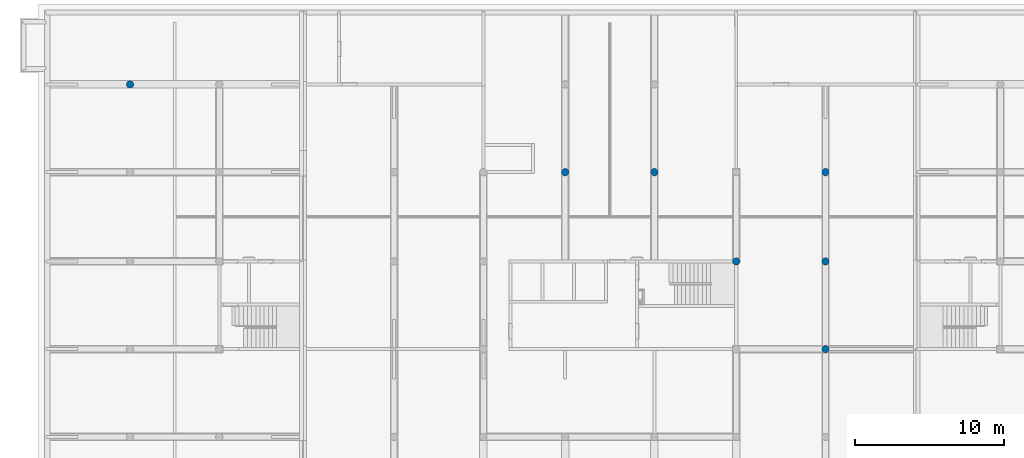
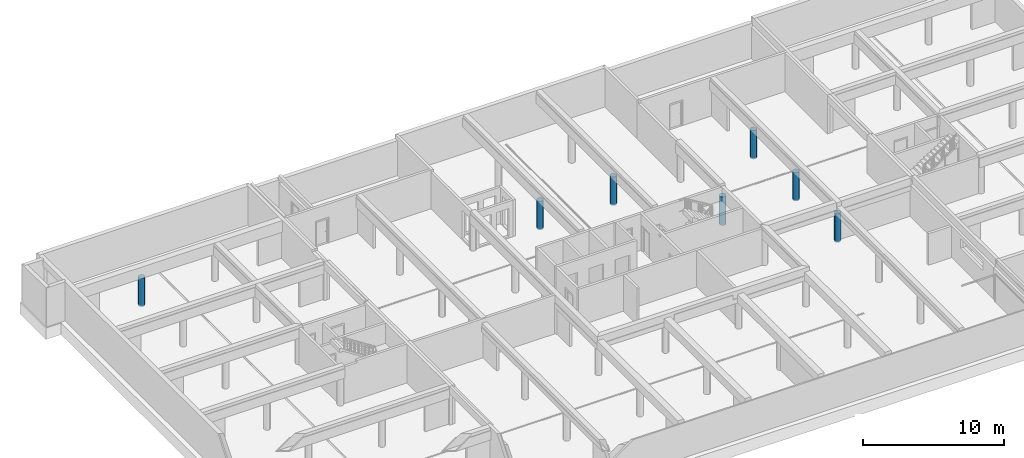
# One storey, part 4 of 25: 7 columns.
"""IFC2X3 building model written with IfcOpenShell, lengths in millimetres."""

import ifcopenshell
import ifcopenshell.guid

model = None  # the IFC model being written
_history = None  # IfcOwnerHistory: only IFC2X3 demands one
_inside = {}  # id of a spatial element -> (the spatial element, [elements in it])
_under = {}  # id of a project, library or spatial element -> (it, [spatial elements below it])
_declared = {}  # id of a project -> (the project, [libraries it declares])
_typed = {}  # id of a type object -> (the type object, [elements of that type])
_made_of = {}  # id of a material, layer set ... -> (it, [elements and type objects made of it])


def new_model(schema):
    """Start an empty IFC model of exactly this schema.

    Asked for "IFC4X3", IfcOpenShell would pick the latest addendum, in which some entities
    have other attributes; the version numbers below select the first issue.
    IFC2X3 requires an IfcOwnerHistory on every rooted entity: one is made here for all.
    """
    global model, _history
    if schema == "IFC4X3":
        model = ifcopenshell.file(schema_version=(4, 3, 0, 0))
    else:
        model = ifcopenshell.file(schema=schema)
    _inside.clear()
    _under.clear()
    _declared.clear()
    _typed.clear()
    _made_of.clear()
    _history = None
    if model.schema == "IFC2X3":
        org = make("IfcOrganization", Name="unknown")
        user = make(
            "IfcPersonAndOrganization",
            ThePerson=make("IfcPerson", FamilyName="unknown"),
            TheOrganization=org,
        )
        app = make(
            "IfcApplication",
            ApplicationDeveloper=org,
            Version="unknown",
            ApplicationFullName="unknown",
            ApplicationIdentifier="unknown",
        )
        _history = make(
            "IfcOwnerHistory",
            OwningUser=user,
            OwningApplication=app,
            ChangeAction="ADDED",
            CreationDate=0,
        )
    return model


def make(cls, **values):
    """One entity of the class cls with the attributes given. An attribute that is None is left unset."""
    return model.create_entity(
        cls, **{name: value for name, value in values.items() if value is not None}
    )


def entity(cls, *values):
    """Any entity or typed value of the class cls, its attributes in the order of the schema. None: left unset."""
    e = model.create_entity(cls)
    for i, value in enumerate(values):
        if value is not None:
            e[i] = value
    return e


def rooted(cls, **values):
    """An entity with a GlobalId (a new one), such as an element, a storey or a relation."""
    return make(cls, GlobalId=ifcopenshell.guid.new(), OwnerHistory=_history, **values)


def si_unit(unit_type, name, prefix=None):
    """IfcSIUnit, for example si_unit("LENGTHUNIT", "METRE", prefix="MILLI")."""
    return make("IfcSIUnit", UnitType=unit_type, Prefix=prefix, Name=name)


def converted_unit(unit_type, name, factor, base, dimensions=None, offset=None):
    """IfcConversionBasedUnit, such as the inch: factor (a typed value) times the base unit."""
    return make(
        "IfcConversionBasedUnit"
        if offset is None
        else "IfcConversionBasedUnitWithOffset",
        ConversionOffset=offset,
        Dimensions=None
        if dimensions is None
        else entity("IfcDimensionalExponents", *dimensions),
        UnitType=unit_type,
        Name=name,
        ConversionFactor=make(
            "IfcMeasureWithUnit", ValueComponent=factor, UnitComponent=base
        ),
    )


def derived_unit(unit_type, elements):
    """IfcDerivedUnit: a product of units, each with its exponent."""
    return make(
        "IfcDerivedUnit",
        Elements=[
            make("IfcDerivedUnitElement", Unit=unit, Exponent=power)
            for unit, power in elements
        ],
        UnitType=unit_type,
    )


def money_unit(currency):
    """IfcMonetaryUnit."""
    return make("IfcMonetaryUnit", Currency=currency)


def assignment(units):
    """IfcUnitAssignment: the units of a project."""
    return None if units is None else make("IfcUnitAssignment", Units=units)


def point(xyz):
    """IfcCartesianPoint."""
    return None if xyz is None else make("IfcCartesianPoint", Coordinates=xyz)


def direction(xyz):
    """IfcDirection."""
    return None if xyz is None else make("IfcDirection", DirectionRatios=xyz)


def frame(location, z_axis=None, x_axis=None):
    """IfcAxis2Placement3D, a coordinate frame: its origin and axes. An axis left out is left unset."""
    return make(
        "IfcAxis2Placement3D",
        Location=point(location),
        Axis=direction(z_axis),
        RefDirection=direction(x_axis),
    )


def origin_with_axes():
    """The frame at (0, 0, 0) with the z axis (0, 0, 1) and the x axis (1, 0, 0) written out."""
    return frame((0.0, 0.0, 0.0), z_axis=(0.0, 0.0, 1.0), x_axis=(1.0, 0.0, 0.0))


def place(relative_to, where):
    """IfcLocalPlacement: puts the frame where relative to a parent placement (None: the world)."""
    return make(
        "IfcLocalPlacement", PlacementRelTo=relative_to, RelativePlacement=where
    )


def context(
    kind, dimensions, precision=None, world=None, true_north=None, identifier=None
):
    """IfcGeometricRepresentationContext, for example the 3D "Model" context."""
    return make(
        "IfcGeometricRepresentationContext",
        ContextIdentifier=identifier,
        ContextType=kind,
        CoordinateSpaceDimension=dimensions,
        Precision=precision,
        WorldCoordinateSystem=world,
        TrueNorth=true_north,
    )


def subcontext(parent, identifier, kind, view, scale=None):
    """IfcGeometricRepresentationSubContext, for example "Body" below "Model"."""
    return make(
        "IfcGeometricRepresentationSubContext",
        ContextIdentifier=identifier,
        ContextType=kind,
        ParentContext=parent,
        TargetScale=scale,
        TargetView=view,
    )


def project(units=None, contexts=None):
    """IfcProject with its units and contexts."""
    return rooted(
        "IfcProject",
        Name="project",
        RepresentationContexts=contexts,
        UnitsInContext=assignment(units),
    )


def spatial(cls, under=None, at=None, **own):
    """A site, building, storey or space (cls), placed at a placement, below another one or the project."""
    s = rooted(cls, ObjectPlacement=at, **own)
    if under is not None:
        _under.setdefault(under.id(), (under, []))[1].append(s)
    return s


def faces_of(points, faces, orient=None, outer=None):
    """IfcFace entities. A face is a list of loops; a loop is a list of indices into points, from 0.

    orient and outer hold one flag for each loop. By default every Orientation is true, the
    first loop of a face is its IfcFaceOuterBound and the others are IfcFaceBound.
    """
    made = []
    for i, loops in enumerate(faces):
        bounds = []
        for j, loop in enumerate(loops):
            is_outer = j == 0 if outer is None else outer[i][j]
            bounds.append(
                make(
                    "IfcFaceOuterBound" if is_outer else "IfcFaceBound",
                    Bound=make("IfcPolyLoop", Polygon=[points[k] for k in loop]),
                    Orientation=True if orient is None else orient[i][j],
                )
            )
        made.append(make("IfcFace", Bounds=bounds))
    return made


def faceted_brep(points, faces, orient=None, outer=None, voids=None):
    """IfcFacetedBrep: a solid bounded by flat faces; with voids (closed shells), ...WithVoids."""
    shared = [point(p) for p in points]
    hull = make("IfcClosedShell", CfsFaces=faces_of(shared, faces, orient, outer))
    if voids is None:
        return make("IfcFacetedBrep", Outer=hull)
    return make(
        "IfcFacetedBrepWithVoids",
        Outer=hull,
        Voids=[
            make(cls, CfsFaces=faces_of(shared, fs, o, b)) for cls, fs, o, b in voids
        ],
    )


def shape(context_of_items, identifier, shape_type, items):
    """IfcShapeRepresentation: the items that make up one representation, for example the "Body"."""
    return make(
        "IfcShapeRepresentation",
        ContextOfItems=context_of_items,
        RepresentationIdentifier=identifier,
        RepresentationType=shape_type,
        Items=items,
    )


def material(Name=None, Category=None):
    """IfcMaterial."""
    return make("IfcMaterial", Name=Name, Category=Category)


def made_of(thing, what):
    """Note that an element or type object is made of a material, layer set ...; save() writes the relation."""
    if what is not None:
        _made_of.setdefault(what.id(), (what, []))[1].append(thing)
    return thing


def type_object(cls, material=None, **own):
    """A type object (cls), such as IfcWallType, which elements share."""
    return made_of(rooted(cls, **own), material)


def element(
    cls,
    number,
    at=None,
    inside=None,
    cuts=None,
    type_object=None,
    material=None,
    context=None,
    identifier="Body",
    shape_type=None,
    held_by="IfcProductDefinitionShape",
    body=None,
    shapes=None,
    **own,
):
    """One element of the class cls, such as IfcWall. Its Tag is "e" and its number.

    at: its placement. inside: the storey or other place that contains it. cuts: it is an
    opening in that element (IfcRelVoidsElement). A single representation is given by context,
    identifier, shape_type and body (its items); several are given by shapes. held_by: the class
    of the entity that holds the representations. save() writes the other relations.
    """
    e = rooted(cls, Tag="e%d" % number, ObjectPlacement=at, **own)
    if body is not None:
        shapes = [shape(context, identifier, shape_type, body)]
    if shapes is not None:
        e.Representation = make(held_by, Representations=shapes)
    if inside is not None:
        _inside.setdefault(inside.id(), (inside, []))[1].append(e)
    if cuts is not None:
        rooted(
            "IfcRelVoidsElement", RelatingBuildingElement=cuts, RelatedOpeningElement=e
        )
    if type_object is not None:
        _typed.setdefault(type_object.id(), (type_object, []))[1].append(e)
    return made_of(e, material)


def aggregate(whole, parts):
    """IfcRelAggregates: a whole, such as a stair, and the parts it consists of."""
    return rooted("IfcRelAggregates", RelatingObject=whole, RelatedObjects=parts)


def save(model, path):
    """Write the relations noted so far, then the file.

    IfcRelAggregates (storeys below a building ...), IfcRelContainedInSpatialStructure (elements
    in a storey), IfcRelDefinesByType, IfcRelAssociatesMaterial and IfcRelDeclares: one each for
    every whole, place, type object, material and project.
    """
    for whole, parts in _under.values():
        aggregate(whole, parts)
    for where, things in _inside.values():
        rooted(
            "IfcRelContainedInSpatialStructure",
            RelatedElements=things,
            RelatingStructure=where,
        )
    for kind, things in _typed.values():
        rooted("IfcRelDefinesByType", RelatedObjects=things, RelatingType=kind)
    for what, things in _made_of.values():
        rooted("IfcRelAssociatesMaterial", RelatedObjects=things, RelatingMaterial=what)
    for by, libraries in _declared.values():
        rooted("IfcRelDeclares", RelatingContext=by, RelatedDefinitions=libraries)
    model.write(path)


model = new_model("IFC2X3")

# Units and contexts
model_context = context("Model", 3, precision=0.01, world=origin_with_axes(), true_north=direction((0.34421633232, 0.938890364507)))
body_context = subcontext(model_context, "Body", "Model", "MODEL_VIEW")
ifc_project = project(units=[si_unit("LENGTHUNIT", "METRE", prefix="MILLI"), si_unit("AREAUNIT", "SQUARE_METRE"), si_unit("VOLUMEUNIT", "CUBIC_METRE"), converted_unit("PLANEANGLEUNIT", "DEGREE", entity("IfcPlaneAngleMeasure", 0.0174532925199), si_unit("PLANEANGLEUNIT", "RADIAN"), dimensions=[0, 0, 0, 0, 0, 0, 0]), si_unit("SOLIDANGLEUNIT", "STERADIAN"), money_unit("USD"), converted_unit("TIMEUNIT", "Year", entity("IfcTimeMeasure", 31556926.0), si_unit("TIMEUNIT", "SECOND"), dimensions=[0, 0, 1, 0, 0, 0, 0]), si_unit("MASSUNIT", "GRAM", prefix="KILO"), si_unit("THERMODYNAMICTEMPERATUREUNIT", "DEGREE_CELSIUS"), si_unit("LUMINOUSINTENSITYUNIT", "LUMEN"), si_unit("ENERGYUNIT", "JOULE", prefix="MEGA"), derived_unit("THERMALCONDUCTANCEUNIT", [(si_unit("POWERUNIT", "WATT"), 1), (si_unit("LENGTHUNIT", "METRE"), -1), (si_unit("THERMODYNAMICTEMPERATUREUNIT", "KELVIN"), -1)]), derived_unit("SPECIFICHEATCAPACITYUNIT", [(si_unit("ENERGYUNIT", "JOULE"), 1), (si_unit("MASSUNIT", "GRAM", prefix="KILO"), -1), (si_unit("THERMODYNAMICTEMPERATUREUNIT", "KELVIN"), -1)]), derived_unit("MASSDENSITYUNIT", [(si_unit("MASSUNIT", "GRAM", prefix="KILO"), 1), (si_unit("VOLUMEUNIT", "CUBIC_METRE"), -1)])], contexts=[model_context])

# Site, building, storey
site_placement = place(None, origin_with_axes())
site = spatial("IfcSite", under=ifc_project, at=site_placement, Name="USTRONIE MORSKIE", CompositionType="ELEMENT")
building_placement = place(site_placement, origin_with_axes())
building = spatial("IfcBuilding", under=site, at=building_placement, Name="Budynek", CompositionType="ELEMENT")
storey_placement = place(building_placement, frame((0.0, 0.0, -3600.0), z_axis=(0.0, 0.0, 1.0), x_axis=(1.0, 0.0, 0.0)))
storey = spatial("IfcBuildingStorey", under=building, at=storey_placement, Name="GARAZ", CompositionType="ELEMENT", Elevation=-3600.0)

# Columns
ifc_material = material(Name="Beton konstrukcyjny 01")
column_type = type_object("IfcColumnType", Name="Beton konstrukcyjny 01 D500", PredefinedType="NOTDEFINED")
column_1_placement = place(storey_placement, frame((390817.920919, 738801.199036, -100.0), z_axis=(0.0, 0.0, 1.0), x_axis=(1.0, 0.0, 0.0)))
element("IfcColumn", 1, at=column_1_placement, inside=storey, type_object=column_type, material=ifc_material, Name="S4", context=body_context, shape_type="Brep", body=[
    faceted_brep([(-250.0, 0.0, 2470.00030619), (-250.0, 0.0, 0.0), (-246.201938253, -43.4120444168, 0.0), (-246.201938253, -43.4120444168, 2470.00030619), (-246.201938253, 43.4120444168, 2470.00030619), (-246.201938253, 43.4120444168, 0.0), (-234.923155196, 85.5050358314, 0.0), (-216.506350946, 125.0, 0.0), (-191.51111078, 160.696902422, 0.0), (-160.696902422, 191.51111078, 0.0), (-125.0, 216.506350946, 0.0), (-85.5050358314, 234.923155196, 0.0), (-43.4120444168, 246.201938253, 0.0), (0.0, 250.0, 0.0), (43.4120444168, 246.201938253, 0.0), (85.5050358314, 234.923155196, 0.0), (125.0, 216.506350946, 0.0), (160.696902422, 191.51111078, 0.0), (191.51111078, 160.696902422, 0.0), (216.506350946, 125.0, 0.0), (234.923155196, 85.5050358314, 0.0), (246.201938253, 43.4120444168, 0.0), (250.0, 0.0, 0.0), (246.201938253, -43.4120444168, 0.0), (234.923155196, -85.5050358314, 0.0), (216.506350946, -125.0, 0.0), (191.51111078, -160.696902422, 0.0), (160.696902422, -191.51111078, 0.0), (125.0, -216.506350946, 0.0), (85.5050358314, -234.923155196, 0.0), (43.4120444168, -246.201938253, 0.0), (0.0, -250.0, 0.0), (-43.4120444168, -246.201938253, 0.0), (-85.5050358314, -234.923155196, 0.0), (-125.0, -216.506350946, 0.0), (-160.696902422, -191.51111078, 0.0), (-191.51111078, -160.696902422, 0.0), (-216.506350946, -125.0, 0.0), (-234.923155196, -85.5050358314, 0.0), (-234.923155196, -85.5050358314, 2470.00030619), (-216.506350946, -125.0, 2470.00030619), (-191.51111078, -160.696902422, 2470.00030619), (-160.696902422, -191.51111078, 2470.00030619), (-125.0, -216.506350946, 2470.00030619), (-85.5050358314, -234.923155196, 2470.00030619), (-43.4120444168, -246.201938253, 2470.00030619), (0.0, -250.0, 2470.00030619), (43.4120444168, -246.201938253, 2470.00030619), (85.5050358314, -234.923155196, 2470.00030619), (125.0, -216.506350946, 2470.00030619), (160.696902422, -191.51111078, 2470.00030619), (191.51111078, -160.696902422, 2470.00030619), (216.506350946, -125.0, 2470.00030619), (234.923155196, -85.5050358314, 2470.00030619), (246.201938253, -43.4120444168, 2470.00030619), (250.0, 0.0, 2470.00030619), (246.201938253, 43.4120444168, 2470.00030619), (234.923155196, 85.5050358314, 2470.00030619), (216.506350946, 125.0, 2470.00030619), (191.51111078, 160.696902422, 2470.00030619), (160.696902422, 191.51111078, 2470.00030619), (125.0, 216.506350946, 2470.00030619), (85.5050358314, 234.923155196, 2470.00030619), (43.4120444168, 246.201938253, 2470.00030619), (0.0, 250.0, 2470.00030619), (-43.4120444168, 246.201938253, 2470.00030619), (-85.5050358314, 234.923155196, 2470.00030619), (-125.0, 216.506350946, 2470.00030619), (-160.696902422, 191.51111078, 2470.00030619), (-191.51111078, 160.696902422, 2470.00030619), (-216.506350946, 125.0, 2470.00030619), (-234.923155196, 85.5050358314, 2470.00030619)], [[[0, 1, 2, 3]], [[4, 5, 1, 0]], [[2, 1, 5, 6, 7, 8, 9, 10, 11, 12, 13, 14, 15, 16, 17, 18, 19, 20, 21, 22, 23, 24, 25, 26, 27, 28, 29, 30, 31, 32, 33, 34, 35, 36, 37, 38]], [[3, 2, 38, 39]], [[4, 0, 3, 39, 40, 41, 42, 43, 44, 45, 46, 47, 48, 49, 50, 51, 52, 53, 54, 55, 56, 57, 58, 59, 60, 61, 62, 63, 64, 65, 66, 67, 68, 69, 70, 71]], [[71, 6, 5, 4]], [[70, 7, 6, 71]], [[69, 8, 7, 70]], [[68, 9, 8, 69]], [[67, 10, 9, 68]], [[66, 11, 10, 67]], [[65, 12, 11, 66]], [[64, 13, 12, 65]], [[63, 14, 13, 64]], [[62, 15, 14, 63]], [[61, 16, 15, 62]], [[60, 17, 16, 61]], [[59, 18, 17, 60]], [[58, 19, 18, 59]], [[57, 20, 19, 58]], [[56, 21, 20, 57]], [[55, 22, 21, 56]], [[54, 23, 22, 55]], [[53, 24, 23, 54]], [[52, 25, 24, 53]], [[51, 26, 25, 52]], [[50, 27, 26, 51]], [[49, 28, 27, 50]], [[48, 29, 28, 49]], [[47, 30, 29, 48]], [[46, 31, 30, 47]], [[45, 32, 31, 46]], [[44, 33, 32, 45]], [[43, 34, 33, 44]], [[42, 35, 34, 43]], [[41, 36, 35, 42]], [[40, 37, 36, 41]], [[39, 38, 37, 40]]]),
])
column_2_placement = place(storey_placement, frame((402317.920919, 726901.199036, -100.0), z_axis=(0.0, 0.0, 1.0), x_axis=(1.0, 0.0, 0.0)))
element("IfcColumn", 2, at=column_2_placement, inside=storey, type_object=column_type, material=ifc_material, Name="S3", context=body_context, shape_type="Brep", body=[
    faceted_brep([(-250.0, 0.0, 2470.00030619), (-250.0, 0.0, 0.0), (-246.201938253, -43.4120444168, 0.0), (-246.201938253, -43.4120444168, 2470.00030619), (-246.201938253, 43.4120444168, 2470.00030619), (-246.201938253, 43.4120444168, 0.0), (-234.923155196, 85.5050358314, 0.0), (-216.506350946, 125.0, 0.0), (-191.51111078, 160.696902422, 0.0), (-160.696902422, 191.51111078, 0.0), (-125.0, 216.506350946, 0.0), (-85.5050358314, 234.923155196, 0.0), (-43.4120444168, 246.201938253, 0.0), (0.0, 250.0, 0.0), (43.4120444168, 246.201938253, 0.0), (85.5050358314, 234.923155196, 0.0), (125.0, 216.506350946, 0.0), (160.696902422, 191.51111078, 0.0), (191.51111078, 160.696902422, 0.0), (216.506350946, 125.0, 0.0), (234.923155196, 85.5050358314, 0.0), (246.201938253, 43.4120444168, 0.0), (250.0, 0.0, 0.0), (246.201938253, -43.4120444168, 0.0), (234.923155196, -85.5050358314, 0.0), (216.506350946, -125.0, 0.0), (191.51111078, -160.696902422, 0.0), (160.696902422, -191.51111078, 0.0), (125.0, -216.506350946, 0.0), (85.5050358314, -234.923155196, 0.0), (43.4120444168, -246.201938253, 0.0), (0.0, -250.0, 0.0), (-43.4120444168, -246.201938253, 0.0), (-85.5050358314, -234.923155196, 0.0), (-125.0, -216.506350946, 0.0), (-160.696902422, -191.51111078, 0.0), (-191.51111078, -160.696902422, 0.0), (-216.506350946, -125.0, 0.0), (-234.923155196, -85.5050358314, 0.0), (-234.923155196, -85.5050358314, 2470.00030619), (-216.506350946, -125.0, 2470.00030619), (-191.51111078, -160.696902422, 2470.00030619), (-160.696902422, -191.51111078, 2470.00030619), (-125.0, -216.506350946, 2470.00030619), (-85.5050358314, -234.923155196, 2470.00030619), (-43.4120444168, -246.201938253, 2470.00030619), (0.0, -250.0, 2470.00030619), (43.4120444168, -246.201938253, 2470.00030619), (85.5050358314, -234.923155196, 2470.00030619), (125.0, -216.506350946, 2470.00030619), (160.696902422, -191.51111078, 2470.00030619), (191.51111078, -160.696902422, 2470.00030619), (216.506350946, -125.0, 2470.00030619), (234.923155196, -85.5050358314, 2470.00030619), (246.201938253, -43.4120444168, 2470.00030619), (250.0, 0.0, 2470.00030619), (246.201938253, 43.4120444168, 2470.00030619), (234.923155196, 85.5050358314, 2470.00030619), (216.506350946, 125.0, 2470.00030619), (191.51111078, 160.696902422, 2470.00030619), (160.696902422, 191.51111078, 2470.00030619), (125.0, 216.506350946, 2470.00030619), (85.5050358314, 234.923155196, 2470.00030619), (43.4120444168, 246.201938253, 2470.00030619), (0.0, 250.0, 2470.00030619), (-43.4120444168, 246.201938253, 2470.00030619), (-85.5050358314, 234.923155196, 2470.00030619), (-125.0, 216.506350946, 2470.00030619), (-160.696902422, 191.51111078, 2470.00030619), (-191.51111078, 160.696902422, 2470.00030619), (-216.506350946, 125.0, 2470.00030619), (-234.923155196, 85.5050358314, 2470.00030619)], [[[0, 1, 2, 3]], [[4, 5, 1, 0]], [[2, 1, 5, 6, 7, 8, 9, 10, 11, 12, 13, 14, 15, 16, 17, 18, 19, 20, 21, 22, 23, 24, 25, 26, 27, 28, 29, 30, 31, 32, 33, 34, 35, 36, 37, 38]], [[3, 2, 38, 39]], [[4, 0, 3, 39, 40, 41, 42, 43, 44, 45, 46, 47, 48, 49, 50, 51, 52, 53, 54, 55, 56, 57, 58, 59, 60, 61, 62, 63, 64, 65, 66, 67, 68, 69, 70, 71]], [[71, 6, 5, 4]], [[70, 7, 6, 71]], [[69, 8, 7, 70]], [[68, 9, 8, 69]], [[67, 10, 9, 68]], [[66, 11, 10, 67]], [[65, 12, 11, 66]], [[64, 13, 12, 65]], [[63, 14, 13, 64]], [[62, 15, 14, 63]], [[61, 16, 15, 62]], [[60, 17, 16, 61]], [[59, 18, 17, 60]], [[58, 19, 18, 59]], [[57, 20, 19, 58]], [[56, 21, 20, 57]], [[55, 22, 21, 56]], [[54, 23, 22, 55]], [[53, 24, 23, 54]], [[52, 25, 24, 53]], [[51, 26, 25, 52]], [[50, 27, 26, 51]], [[49, 28, 27, 50]], [[48, 29, 28, 49]], [[47, 30, 29, 48]], [[46, 31, 30, 47]], [[45, 32, 31, 46]], [[44, 33, 32, 45]], [[43, 34, 33, 44]], [[42, 35, 34, 43]], [[41, 36, 35, 42]], [[40, 37, 36, 41]], [[39, 38, 37, 40]]]),
])
column_3_placement = place(storey_placement, frame((402317.920919, 732801.199036, -100.0), z_axis=(0.0, 0.0, 1.0), x_axis=(1.0, 0.0, 0.0)))
element("IfcColumn", 3, at=column_3_placement, inside=storey, type_object=column_type, material=ifc_material, Name="S2", context=body_context, shape_type="Brep", body=[
    faceted_brep([(-250.0, 0.0, 2470.00030619), (-250.0, 0.0, 0.0), (-246.201938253, -43.4120444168, 0.0), (-246.201938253, -43.4120444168, 2470.00030619), (-246.201938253, 43.4120444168, 2470.00030619), (-246.201938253, 43.4120444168, 0.0), (-234.923155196, 85.5050358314, 0.0), (-216.506350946, 125.0, 0.0), (-191.51111078, 160.696902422, 0.0), (-160.696902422, 191.51111078, 0.0), (-125.0, 216.506350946, 0.0), (-85.5050358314, 234.923155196, 0.0), (-43.4120444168, 246.201938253, 0.0), (0.0, 250.0, 0.0), (43.4120444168, 246.201938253, 0.0), (85.5050358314, 234.923155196, 0.0), (125.0, 216.506350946, 0.0), (160.696902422, 191.51111078, 0.0), (191.51111078, 160.696902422, 0.0), (216.506350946, 125.0, 0.0), (234.923155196, 85.5050358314, 0.0), (246.201938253, 43.4120444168, 0.0), (250.0, 0.0, 0.0), (246.201938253, -43.4120444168, 0.0), (234.923155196, -85.5050358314, 0.0), (216.506350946, -125.0, 0.0), (191.51111078, -160.696902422, 0.0), (160.696902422, -191.51111078, 0.0), (125.0, -216.506350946, 0.0), (85.5050358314, -234.923155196, 0.0), (43.4120444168, -246.201938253, 0.0), (0.0, -250.0, 0.0), (-43.4120444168, -246.201938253, 0.0), (-85.5050358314, -234.923155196, 0.0), (-125.0, -216.506350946, 0.0), (-160.696902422, -191.51111078, 0.0), (-191.51111078, -160.696902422, 0.0), (-216.506350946, -125.0, 0.0), (-234.923155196, -85.5050358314, 0.0), (-234.923155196, -85.5050358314, 2470.00030619), (-216.506350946, -125.0, 2470.00030619), (-191.51111078, -160.696902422, 2470.00030619), (-160.696902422, -191.51111078, 2470.00030619), (-125.0, -216.506350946, 2470.00030619), (-85.5050358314, -234.923155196, 2470.00030619), (-43.4120444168, -246.201938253, 2470.00030619), (0.0, -250.0, 2470.00030619), (43.4120444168, -246.201938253, 2470.00030619), (85.5050358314, -234.923155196, 2470.00030619), (125.0, -216.506350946, 2470.00030619), (160.696902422, -191.51111078, 2470.00030619), (191.51111078, -160.696902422, 2470.00030619), (216.506350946, -125.0, 2470.00030619), (234.923155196, -85.5050358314, 2470.00030619), (246.201938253, -43.4120444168, 2470.00030619), (250.0, 0.0, 2470.00030619), (246.201938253, 43.4120444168, 2470.00030619), (234.923155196, 85.5050358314, 2470.00030619), (216.506350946, 125.0, 2470.00030619), (191.51111078, 160.696902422, 2470.00030619), (160.696902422, 191.51111078, 2470.00030619), (125.0, 216.506350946, 2470.00030619), (85.5050358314, 234.923155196, 2470.00030619), (43.4120444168, 246.201938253, 2470.00030619), (0.0, 250.0, 2470.00030619), (-43.4120444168, 246.201938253, 2470.00030619), (-85.5050358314, 234.923155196, 2470.00030619), (-125.0, 216.506350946, 2470.00030619), (-160.696902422, 191.51111078, 2470.00030619), (-191.51111078, 160.696902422, 2470.00030619), (-216.506350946, 125.0, 2470.00030619), (-234.923155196, 85.5050358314, 2470.00030619)], [[[0, 1, 2, 3]], [[4, 5, 1, 0]], [[2, 1, 5, 6, 7, 8, 9, 10, 11, 12, 13, 14, 15, 16, 17, 18, 19, 20, 21, 22, 23, 24, 25, 26, 27, 28, 29, 30, 31, 32, 33, 34, 35, 36, 37, 38]], [[3, 2, 38, 39]], [[4, 0, 3, 39, 40, 41, 42, 43, 44, 45, 46, 47, 48, 49, 50, 51, 52, 53, 54, 55, 56, 57, 58, 59, 60, 61, 62, 63, 64, 65, 66, 67, 68, 69, 70, 71]], [[71, 6, 5, 4]], [[70, 7, 6, 71]], [[69, 8, 7, 70]], [[68, 9, 8, 69]], [[67, 10, 9, 68]], [[66, 11, 10, 67]], [[65, 12, 11, 66]], [[64, 13, 12, 65]], [[63, 14, 13, 64]], [[62, 15, 14, 63]], [[61, 16, 15, 62]], [[60, 17, 16, 61]], [[59, 18, 17, 60]], [[58, 19, 18, 59]], [[57, 20, 19, 58]], [[56, 21, 20, 57]], [[55, 22, 21, 56]], [[54, 23, 22, 55]], [[53, 24, 23, 54]], [[52, 25, 24, 53]], [[51, 26, 25, 52]], [[50, 27, 26, 51]], [[49, 28, 27, 50]], [[48, 29, 28, 49]], [[47, 30, 29, 48]], [[46, 31, 30, 47]], [[45, 32, 31, 46]], [[44, 33, 32, 45]], [[43, 34, 33, 44]], [[42, 35, 34, 43]], [[41, 36, 35, 42]], [[40, 37, 36, 41]], [[39, 38, 37, 40]]]),
])
column_4_placement = place(storey_placement, frame((402317.920919, 738801.199036, -100.0), z_axis=(0.0, 0.0, 1.0), x_axis=(1.0, 0.0, 0.0)))
element("IfcColumn", 4, at=column_4_placement, inside=storey, type_object=column_type, material=ifc_material, Name="S1", context=body_context, shape_type="Brep", body=[
    faceted_brep([(-250.0, 0.0, 2470.00030619), (-250.0, 0.0, 0.0), (-246.201938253, -43.4120444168, 0.0), (-246.201938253, -43.4120444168, 2470.00030619), (-246.201938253, 43.4120444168, 2470.00030619), (-246.201938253, 43.4120444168, 0.0), (-234.923155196, 85.5050358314, 0.0), (-216.506350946, 125.0, 0.0), (-191.51111078, 160.696902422, 0.0), (-160.696902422, 191.51111078, 0.0), (-125.0, 216.506350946, 0.0), (-85.5050358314, 234.923155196, 0.0), (-43.4120444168, 246.201938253, 0.0), (0.0, 250.0, 0.0), (43.4120444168, 246.201938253, 0.0), (85.5050358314, 234.923155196, 0.0), (125.0, 216.506350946, 0.0), (160.696902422, 191.51111078, 0.0), (191.51111078, 160.696902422, 0.0), (216.506350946, 125.0, 0.0), (234.923155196, 85.5050358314, 0.0), (246.201938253, 43.4120444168, 0.0), (250.0, 0.0, 0.0), (246.201938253, -43.4120444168, 0.0), (234.923155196, -85.5050358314, 0.0), (216.506350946, -125.0, 0.0), (191.51111078, -160.696902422, 0.0), (160.696902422, -191.51111078, 0.0), (125.0, -216.506350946, 0.0), (85.5050358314, -234.923155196, 0.0), (43.4120444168, -246.201938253, 0.0), (0.0, -250.0, 0.0), (-43.4120444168, -246.201938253, 0.0), (-85.5050358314, -234.923155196, 0.0), (-125.0, -216.506350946, 0.0), (-160.696902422, -191.51111078, 0.0), (-191.51111078, -160.696902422, 0.0), (-216.506350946, -125.0, 0.0), (-234.923155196, -85.5050358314, 0.0), (-234.923155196, -85.5050358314, 2470.00030619), (-216.506350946, -125.0, 2470.00030619), (-191.51111078, -160.696902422, 2470.00030619), (-160.696902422, -191.51111078, 2470.00030619), (-125.0, -216.506350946, 2470.00030619), (-85.5050358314, -234.923155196, 2470.00030619), (-43.4120444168, -246.201938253, 2470.00030619), (0.0, -250.0, 2470.00030619), (43.4120444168, -246.201938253, 2470.00030619), (85.5050358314, -234.923155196, 2470.00030619), (125.0, -216.506350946, 2470.00030619), (160.696902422, -191.51111078, 2470.00030619), (191.51111078, -160.696902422, 2470.00030619), (216.506350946, -125.0, 2470.00030619), (234.923155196, -85.5050358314, 2470.00030619), (246.201938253, -43.4120444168, 2470.00030619), (250.0, 0.0, 2470.00030619), (246.201938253, 43.4120444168, 2470.00030619), (234.923155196, 85.5050358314, 2470.00030619), (216.506350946, 125.0, 2470.00030619), (191.51111078, 160.696902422, 2470.00030619), (160.696902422, 191.51111078, 2470.00030619), (125.0, 216.506350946, 2470.00030619), (85.5050358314, 234.923155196, 2470.00030619), (43.4120444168, 246.201938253, 2470.00030619), (0.0, 250.0, 2470.00030619), (-43.4120444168, 246.201938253, 2470.00030619), (-85.5050358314, 234.923155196, 2470.00030619), (-125.0, 216.506350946, 2470.00030619), (-160.696902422, 191.51111078, 2470.00030619), (-191.51111078, 160.696902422, 2470.00030619), (-216.506350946, 125.0, 2470.00030619), (-234.923155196, 85.5050358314, 2470.00030619)], [[[0, 1, 2, 3]], [[4, 5, 1, 0]], [[2, 1, 5, 6, 7, 8, 9, 10, 11, 12, 13, 14, 15, 16, 17, 18, 19, 20, 21, 22, 23, 24, 25, 26, 27, 28, 29, 30, 31, 32, 33, 34, 35, 36, 37, 38]], [[3, 2, 38, 39]], [[4, 0, 3, 39, 40, 41, 42, 43, 44, 45, 46, 47, 48, 49, 50, 51, 52, 53, 54, 55, 56, 57, 58, 59, 60, 61, 62, 63, 64, 65, 66, 67, 68, 69, 70, 71]], [[71, 6, 5, 4]], [[70, 7, 6, 71]], [[69, 8, 7, 70]], [[68, 9, 8, 69]], [[67, 10, 9, 68]], [[66, 11, 10, 67]], [[65, 12, 11, 66]], [[64, 13, 12, 65]], [[63, 14, 13, 64]], [[62, 15, 14, 63]], [[61, 16, 15, 62]], [[60, 17, 16, 61]], [[59, 18, 17, 60]], [[58, 19, 18, 59]], [[57, 20, 19, 58]], [[56, 21, 20, 57]], [[55, 22, 21, 56]], [[54, 23, 22, 55]], [[53, 24, 23, 54]], [[52, 25, 24, 53]], [[51, 26, 25, 52]], [[50, 27, 26, 51]], [[49, 28, 27, 50]], [[48, 29, 28, 49]], [[47, 30, 29, 48]], [[46, 31, 30, 47]], [[45, 32, 31, 46]], [[44, 33, 32, 45]], [[43, 34, 33, 44]], [[42, 35, 34, 43]], [[41, 36, 35, 42]], [[40, 37, 36, 41]], [[39, 38, 37, 40]]]),
])
column_5_placement = place(storey_placement, frame((355567.920919, 744701.199036, -100.0), z_axis=(0.0, 0.0, 1.0), x_axis=(1.0, 0.0, 0.0)))
element("IfcColumn", 5, at=column_5_placement, inside=storey, type_object=column_type, material=ifc_material, Name="S1", context=body_context, shape_type="Brep", body=[
    faceted_brep([(-250.0, 0.0, 2470.00030619), (-250.0, 0.0, 0.0), (-246.201938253, -43.4120444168, 0.0), (-246.201938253, -43.4120444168, 2470.00030619), (-246.201938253, 43.4120444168, 2470.00030619), (-246.201938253, 43.4120444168, 0.0), (-234.923155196, 85.5050358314, 0.0), (-216.506350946, 125.0, 0.0), (-191.51111078, 160.696902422, 0.0), (-160.696902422, 191.51111078, 0.0), (-125.0, 216.506350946, 0.0), (-85.5050358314, 234.923155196, 0.0), (-43.4120444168, 246.201938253, 0.0), (0.0, 250.0, 0.0), (43.4120444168, 246.201938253, 0.0), (85.5050358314, 234.923155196, 0.0), (125.0, 216.506350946, 0.0), (160.696902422, 191.51111078, 0.0), (191.51111078, 160.696902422, 0.0), (216.506350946, 125.0, 0.0), (234.923155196, 85.5050358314, 0.0), (246.201938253, 43.4120444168, 0.0), (250.0, 0.0, 0.0), (246.201938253, -43.4120444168, 0.0), (234.923155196, -85.5050358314, 0.0), (216.506350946, -125.0, 0.0), (191.51111078, -160.696902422, 0.0), (160.696902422, -191.51111078, 0.0), (125.0, -216.506350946, 0.0), (85.5050358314, -234.923155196, 0.0), (43.4120444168, -246.201938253, 0.0), (0.0, -250.0, 0.0), (-43.4120444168, -246.201938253, 0.0), (-85.5050358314, -234.923155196, 0.0), (-125.0, -216.506350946, 0.0), (-160.696902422, -191.51111078, 0.0), (-191.51111078, -160.696902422, 0.0), (-216.506350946, -125.0, 0.0), (-234.923155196, -85.5050358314, 0.0), (-234.923155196, -85.5050358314, 2470.00030619), (-216.506350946, -125.0, 2470.00030619), (-191.51111078, -160.696902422, 2470.00030619), (-160.696902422, -191.51111078, 2470.00030619), (-125.0, -216.506350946, 2470.00030619), (-85.5050358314, -234.923155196, 2470.00030619), (-43.4120444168, -246.201938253, 2470.00030619), (0.0, -250.0, 2470.00030619), (43.4120444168, -246.201938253, 2470.00030619), (85.5050358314, -234.923155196, 2470.00030619), (125.0, -216.506350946, 2470.00030619), (160.696902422, -191.51111078, 2470.00030619), (191.51111078, -160.696902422, 2470.00030619), (216.506350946, -125.0, 2470.00030619), (234.923155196, -85.5050358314, 2470.00030619), (246.201938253, -43.4120444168, 2470.00030619), (250.0, 0.0, 2470.00030619), (246.201938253, 43.4120444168, 2470.00030619), (234.923155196, 85.5050358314, 2470.00030619), (216.506350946, 125.0, 2470.00030619), (191.51111078, 160.696902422, 2470.00030619), (160.696902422, 191.51111078, 2470.00030619), (125.0, 216.506350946, 2470.00030619), (85.5050358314, 234.923155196, 2470.00030619), (43.4120444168, 246.201938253, 2470.00030619), (0.0, 250.0, 2470.00030619), (-43.4120444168, 246.201938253, 2470.00030619), (-85.5050358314, 234.923155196, 2470.00030619), (-125.0, 216.506350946, 2470.00030619), (-160.696902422, 191.51111078, 2470.00030619), (-191.51111078, 160.696902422, 2470.00030619), (-216.506350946, 125.0, 2470.00030619), (-234.923155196, 85.5050358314, 2470.00030619)], [[[0, 1, 2, 3]], [[4, 5, 1, 0]], [[2, 1, 5, 6, 7, 8, 9, 10, 11, 12, 13, 14, 15, 16, 17, 18, 19, 20, 21, 22, 23, 24, 25, 26, 27, 28, 29, 30, 31, 32, 33, 34, 35, 36, 37, 38]], [[3, 2, 38, 39]], [[4, 0, 3, 39, 40, 41, 42, 43, 44, 45, 46, 47, 48, 49, 50, 51, 52, 53, 54, 55, 56, 57, 58, 59, 60, 61, 62, 63, 64, 65, 66, 67, 68, 69, 70, 71]], [[71, 6, 5, 4]], [[70, 7, 6, 71]], [[69, 8, 7, 70]], [[68, 9, 8, 69]], [[67, 10, 9, 68]], [[66, 11, 10, 67]], [[65, 12, 11, 66]], [[64, 13, 12, 65]], [[63, 14, 13, 64]], [[62, 15, 14, 63]], [[61, 16, 15, 62]], [[60, 17, 16, 61]], [[59, 18, 17, 60]], [[58, 19, 18, 59]], [[57, 20, 19, 58]], [[56, 21, 20, 57]], [[55, 22, 21, 56]], [[54, 23, 22, 55]], [[53, 24, 23, 54]], [[52, 25, 24, 53]], [[51, 26, 25, 52]], [[50, 27, 26, 51]], [[49, 28, 27, 50]], [[48, 29, 28, 49]], [[47, 30, 29, 48]], [[46, 31, 30, 47]], [[45, 32, 31, 46]], [[44, 33, 32, 45]], [[43, 34, 33, 44]], [[42, 35, 34, 43]], [[41, 36, 35, 42]], [[40, 37, 36, 41]], [[39, 38, 37, 40]]]),
])
column_6_placement = place(storey_placement, frame((384817.920919, 738801.199036, -100.0), z_axis=(0.0, 0.0, 1.0), x_axis=(1.0, 0.0, 0.0)))
element("IfcColumn", 6, at=column_6_placement, inside=storey, type_object=column_type, material=ifc_material, Name="S3", context=body_context, shape_type="Brep", body=[
    faceted_brep([(-250.0, 0.0, 2470.00030619), (-250.0, 0.0, 0.0), (-246.201938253, -43.4120444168, 0.0), (-246.201938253, -43.4120444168, 2470.00030619), (-246.201938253, 43.4120444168, 2470.00030619), (-246.201938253, 43.4120444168, 0.0), (-234.923155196, 85.5050358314, 0.0), (-216.506350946, 125.0, 0.0), (-191.51111078, 160.696902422, 0.0), (-160.696902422, 191.51111078, 0.0), (-125.0, 216.506350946, 0.0), (-85.5050358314, 234.923155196, 0.0), (-43.4120444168, 246.201938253, 0.0), (0.0, 250.0, 0.0), (43.4120444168, 246.201938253, 0.0), (85.5050358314, 234.923155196, 0.0), (125.0, 216.506350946, 0.0), (160.696902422, 191.51111078, 0.0), (191.51111078, 160.696902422, 0.0), (216.506350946, 125.0, 0.0), (234.923155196, 85.5050358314, 0.0), (246.201938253, 43.4120444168, 0.0), (250.0, 0.0, 0.0), (246.201938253, -43.4120444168, 0.0), (234.923155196, -85.5050358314, 0.0), (216.506350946, -125.0, 0.0), (191.51111078, -160.696902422, 0.0), (160.696902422, -191.51111078, 0.0), (125.0, -216.506350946, 0.0), (85.5050358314, -234.923155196, 0.0), (43.4120444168, -246.201938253, 0.0), (0.0, -250.0, 0.0), (-43.4120444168, -246.201938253, 0.0), (-85.5050358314, -234.923155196, 0.0), (-125.0, -216.506350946, 0.0), (-160.696902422, -191.51111078, 0.0), (-191.51111078, -160.696902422, 0.0), (-216.506350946, -125.0, 0.0), (-234.923155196, -85.5050358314, 0.0), (-234.923155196, -85.5050358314, 2470.00030619), (-216.506350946, -125.0, 2470.00030619), (-191.51111078, -160.696902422, 2470.00030619), (-160.696902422, -191.51111078, 2470.00030619), (-125.0, -216.506350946, 2470.00030619), (-85.5050358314, -234.923155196, 2470.00030619), (-43.4120444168, -246.201938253, 2470.00030619), (0.0, -250.0, 2470.00030619), (43.4120444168, -246.201938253, 2470.00030619), (85.5050358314, -234.923155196, 2470.00030619), (125.0, -216.506350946, 2470.00030619), (160.696902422, -191.51111078, 2470.00030619), (191.51111078, -160.696902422, 2470.00030619), (216.506350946, -125.0, 2470.00030619), (234.923155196, -85.5050358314, 2470.00030619), (246.201938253, -43.4120444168, 2470.00030619), (250.0, 0.0, 2470.00030619), (246.201938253, 43.4120444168, 2470.00030619), (234.923155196, 85.5050358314, 2470.00030619), (216.506350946, 125.0, 2470.00030619), (191.51111078, 160.696902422, 2470.00030619), (160.696902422, 191.51111078, 2470.00030619), (125.0, 216.506350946, 2470.00030619), (85.5050358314, 234.923155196, 2470.00030619), (43.4120444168, 246.201938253, 2470.00030619), (0.0, 250.0, 2470.00030619), (-43.4120444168, 246.201938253, 2470.00030619), (-85.5050358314, 234.923155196, 2470.00030619), (-125.0, 216.506350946, 2470.00030619), (-160.696902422, 191.51111078, 2470.00030619), (-191.51111078, 160.696902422, 2470.00030619), (-216.506350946, 125.0, 2470.00030619), (-234.923155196, 85.5050358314, 2470.00030619)], [[[0, 1, 2, 3]], [[4, 5, 1, 0]], [[2, 1, 5, 6, 7, 8, 9, 10, 11, 12, 13, 14, 15, 16, 17, 18, 19, 20, 21, 22, 23, 24, 25, 26, 27, 28, 29, 30, 31, 32, 33, 34, 35, 36, 37, 38]], [[3, 2, 38, 39]], [[4, 0, 3, 39, 40, 41, 42, 43, 44, 45, 46, 47, 48, 49, 50, 51, 52, 53, 54, 55, 56, 57, 58, 59, 60, 61, 62, 63, 64, 65, 66, 67, 68, 69, 70, 71]], [[71, 6, 5, 4]], [[70, 7, 6, 71]], [[69, 8, 7, 70]], [[68, 9, 8, 69]], [[67, 10, 9, 68]], [[66, 11, 10, 67]], [[65, 12, 11, 66]], [[64, 13, 12, 65]], [[63, 14, 13, 64]], [[62, 15, 14, 63]], [[61, 16, 15, 62]], [[60, 17, 16, 61]], [[59, 18, 17, 60]], [[58, 19, 18, 59]], [[57, 20, 19, 58]], [[56, 21, 20, 57]], [[55, 22, 21, 56]], [[54, 23, 22, 55]], [[53, 24, 23, 54]], [[52, 25, 24, 53]], [[51, 26, 25, 52]], [[50, 27, 26, 51]], [[49, 28, 27, 50]], [[48, 29, 28, 49]], [[47, 30, 29, 48]], [[46, 31, 30, 47]], [[45, 32, 31, 46]], [[44, 33, 32, 45]], [[43, 34, 33, 44]], [[42, 35, 34, 43]], [[41, 36, 35, 42]], [[40, 37, 36, 41]], [[39, 38, 37, 40]]]),
])
column_7_placement = place(storey_placement, frame((396317.920919, 732801.199036, -100.0), z_axis=(0.0, 0.0, 1.0), x_axis=(1.0, 0.0, 0.0)))
element("IfcColumn", 7, at=column_7_placement, inside=storey, type_object=column_type, material=ifc_material, Name="S2", context=body_context, shape_type="Brep", body=[
    faceted_brep([(-250.0, 0.0, 2470.00030619), (-250.0, 0.0, 0.0), (-246.201938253, -43.4120444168, 0.0), (-246.201938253, -43.4120444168, 2470.00030619), (-246.201938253, 43.4120444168, 2470.00030619), (-246.201938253, 43.4120444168, 0.0), (-234.923155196, 85.5050358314, 0.0), (-216.506350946, 125.0, 0.0), (-191.51111078, 160.696902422, 0.0), (-160.696902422, 191.51111078, 0.0), (-125.0, 216.506350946, 0.0), (-85.5050358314, 234.923155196, 0.0), (-43.4120444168, 246.201938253, 0.0), (0.0, 250.0, 0.0), (43.4120444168, 246.201938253, 0.0), (85.5050358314, 234.923155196, 0.0), (125.0, 216.506350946, 0.0), (160.696902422, 191.51111078, 0.0), (191.51111078, 160.696902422, 0.0), (216.506350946, 125.0, 0.0), (234.923155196, 85.5050358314, 0.0), (246.201938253, 43.4120444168, 0.0), (250.0, 0.0, 0.0), (246.201938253, -43.4120444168, 0.0), (234.923155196, -85.5050358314, 0.0), (216.506350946, -125.0, 0.0), (191.51111078, -160.696902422, 0.0), (160.696902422, -191.51111078, 0.0), (125.0, -216.506350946, 0.0), (85.5050358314, -234.923155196, 0.0), (43.4120444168, -246.201938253, 0.0), (0.0, -250.0, 0.0), (-43.4120444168, -246.201938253, 0.0), (-85.5050358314, -234.923155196, 0.0), (-125.0, -216.506350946, 0.0), (-160.696902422, -191.51111078, 0.0), (-191.51111078, -160.696902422, 0.0), (-216.506350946, -125.0, 0.0), (-234.923155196, -85.5050358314, 0.0), (-234.923155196, -85.5050358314, 2470.00030619), (-216.506350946, -125.0, 2470.00030619), (-191.51111078, -160.696902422, 2470.00030619), (-160.696902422, -191.51111078, 2470.00030619), (-125.0, -216.506350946, 2470.00030619), (-85.5050358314, -234.923155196, 2470.00030619), (-43.4120444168, -246.201938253, 2470.00030619), (0.0, -250.0, 2470.00030619), (43.4120444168, -246.201938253, 2470.00030619), (85.5050358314, -234.923155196, 2470.00030619), (125.0, -216.506350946, 2470.00030619), (160.696902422, -191.51111078, 2470.00030619), (191.51111078, -160.696902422, 2470.00030619), (216.506350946, -125.0, 2470.00030619), (234.923155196, -85.5050358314, 2470.00030619), (246.201938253, -43.4120444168, 2470.00030619), (250.0, 0.0, 2470.00030619), (246.201938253, 43.4120444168, 2470.00030619), (234.923155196, 85.5050358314, 2470.00030619), (216.506350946, 125.0, 2470.00030619), (191.51111078, 160.696902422, 2470.00030619), (160.696902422, 191.51111078, 2470.00030619), (125.0, 216.506350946, 2470.00030619), (85.5050358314, 234.923155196, 2470.00030619), (43.4120444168, 246.201938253, 2470.00030619), (0.0, 250.0, 2470.00030619), (-43.4120444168, 246.201938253, 2470.00030619), (-85.5050358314, 234.923155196, 2470.00030619), (-125.0, 216.506350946, 2470.00030619), (-160.696902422, 191.51111078, 2470.00030619), (-191.51111078, 160.696902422, 2470.00030619), (-216.506350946, 125.0, 2470.00030619), (-234.923155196, 85.5050358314, 2470.00030619)], [[[0, 1, 2, 3]], [[4, 5, 1, 0]], [[2, 1, 5, 6, 7, 8, 9, 10, 11, 12, 13, 14, 15, 16, 17, 18, 19, 20, 21, 22, 23, 24, 25, 26, 27, 28, 29, 30, 31, 32, 33, 34, 35, 36, 37, 38]], [[3, 2, 38, 39]], [[4, 0, 3, 39, 40, 41, 42, 43, 44, 45, 46, 47, 48, 49, 50, 51, 52, 53, 54, 55, 56, 57, 58, 59, 60, 61, 62, 63, 64, 65, 66, 67, 68, 69, 70, 71]], [[71, 6, 5, 4]], [[70, 7, 6, 71]], [[69, 8, 7, 70]], [[68, 9, 8, 69]], [[67, 10, 9, 68]], [[66, 11, 10, 67]], [[65, 12, 11, 66]], [[64, 13, 12, 65]], [[63, 14, 13, 64]], [[62, 15, 14, 63]], [[61, 16, 15, 62]], [[60, 17, 16, 61]], [[59, 18, 17, 60]], [[58, 19, 18, 59]], [[57, 20, 19, 58]], [[56, 21, 20, 57]], [[55, 22, 21, 56]], [[54, 23, 22, 55]], [[53, 24, 23, 54]], [[52, 25, 24, 53]], [[51, 26, 25, 52]], [[50, 27, 26, 51]], [[49, 28, 27, 50]], [[48, 29, 28, 49]], [[47, 30, 29, 48]], [[46, 31, 30, 47]], [[45, 32, 31, 46]], [[44, 33, 32, 45]], [[43, 34, 33, 44]], [[42, 35, 34, 43]], [[41, 36, 35, 42]], [[40, 37, 36, 41]], [[39, 38, 37, 40]]]),
])

save(model, "model.ifc")
